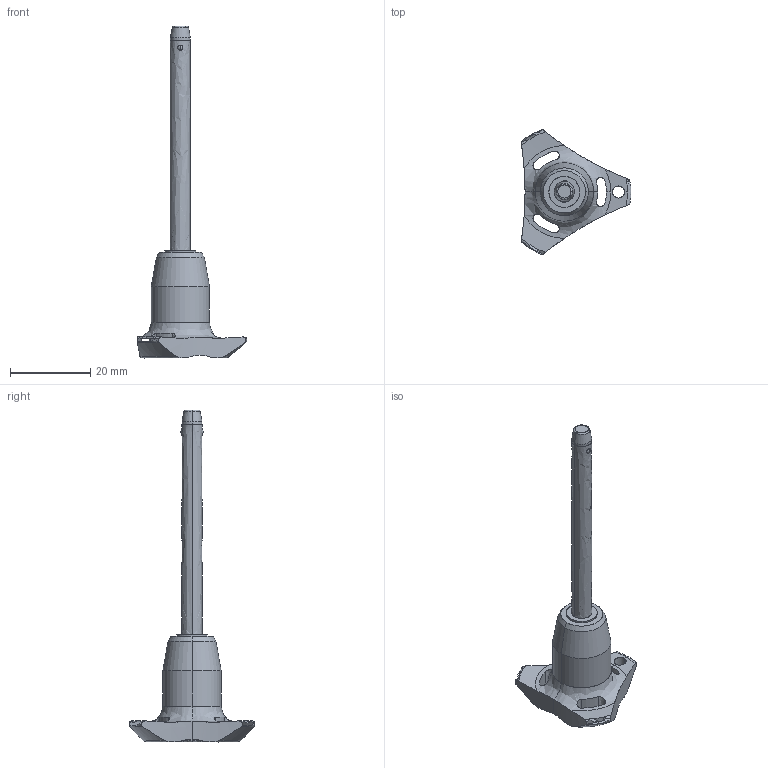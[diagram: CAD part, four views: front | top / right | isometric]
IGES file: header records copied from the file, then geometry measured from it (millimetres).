
Start section: SolidWorks IGES file using analytic representation for surfaces
Global section: file name: C:\Users\ianosborn\Desktop\QR1726_v2\QR1726_v2_20251115_IGES\QR1726.M05-050-T.igs; native system: SolidWorks 2019; preprocessor: SolidWorks 2019; author: IanOsborn; date: 251113.110026; units: millimetre
Bounding box: 27.4 x 31.31 x 82.7 mm (x, y, z)
Surface area: 3293.9 mm2 (no closed solid volume)
Topology: 0 solids, 0 shells, 69 faces, 1299 edges, 1280 vertices
Faces by surface type: revolution 52, bspline 17
